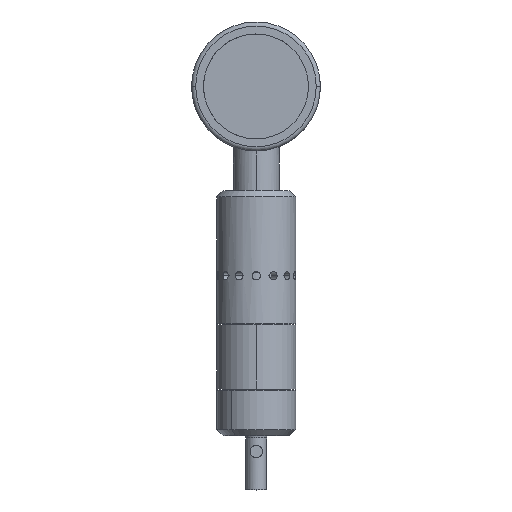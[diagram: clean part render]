
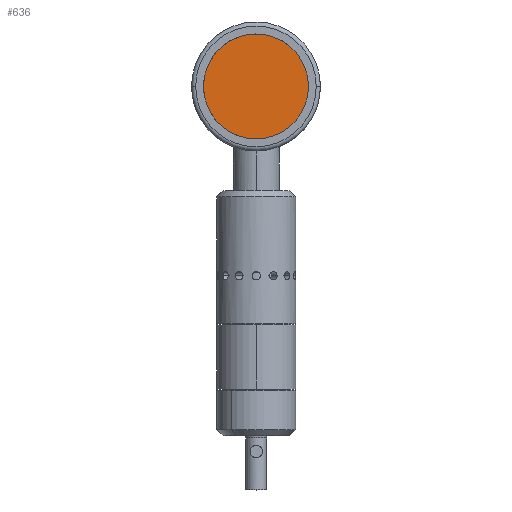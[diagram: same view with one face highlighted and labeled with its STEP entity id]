
A CAD part, top view. The second image highlights one B-rep face of the part: STEP entity #636.
In plain terms, the highlighted planar face has unit normal (-0.005, 0, 1) as drawn and (0, 0, 1) by its records, which use the part's own axes.
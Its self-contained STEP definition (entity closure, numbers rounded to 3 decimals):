
#131 = CARTESIAN_POINT ( 'NONE',  ( 0., 0., 38. ) ) ;
#260 = FACE_OUTER_BOUND ( 'NONE', #3192, .T. ) ;
#636 = ADVANCED_FACE ( 'NONE', ( #260 ), #638, .F. ) ;
#638 = PLANE ( 'NONE',  #6350 ) ;
#804 = DIRECTION ( 'NONE',  ( -1., 0., 0. ) ) ;
#1308 = VERTEX_POINT ( 'NONE', #6965 ) ;
#1321 = DIRECTION ( 'NONE',  ( 0., 0., -1. ) ) ;
#1353 = CARTESIAN_POINT ( 'NONE',  ( 0., 0., 38. ) ) ;
#2027 = DIRECTION ( 'NONE',  ( -1., 0., 0. ) ) ;
#2799 = ORIENTED_EDGE ( 'NONE', *, *, #8282, .T. ) ;
#3192 = EDGE_LOOP ( 'NONE', ( #3322, #2799 ) ) ;
#3322 = ORIENTED_EDGE ( 'NONE', *, *, #6650, .T. ) ;
#3920 = AXIS2_PLACEMENT_3D ( 'NONE', #1353, #6017, #2027 ) ;
#4472 = CIRCLE ( 'NONE', #3920, 25.25 ) ;
#4764 = DIRECTION ( 'NONE',  ( 0., 0., 1. ) ) ;
#5296 = CARTESIAN_POINT ( 'NONE',  ( 0., 0., 38. ) ) ;
#5982 = DIRECTION ( 'NONE',  ( -1., 0., 0. ) ) ;
#6017 = DIRECTION ( 'NONE',  ( 0., 0., 1. ) ) ;
#6230 = CARTESIAN_POINT ( 'NONE',  ( 25.25, 0., 38. ) ) ;
#6350 = AXIS2_PLACEMENT_3D ( 'NONE', #5296, #1321, #5982 ) ;
#6650 = EDGE_CURVE ( 'NONE', #8415, #1308, #4472, .T. ) ;
#6965 = CARTESIAN_POINT ( 'NONE',  ( -25.25, 0., 38. ) ) ;
#7893 = AXIS2_PLACEMENT_3D ( 'NONE', #131, #4764, #804 ) ;
#8282 = EDGE_CURVE ( 'NONE', #1308, #8415, #8473, .T. ) ;
#8415 = VERTEX_POINT ( 'NONE', #6230 ) ;
#8473 = CIRCLE ( 'NONE', #7893, 25.25 ) ;
